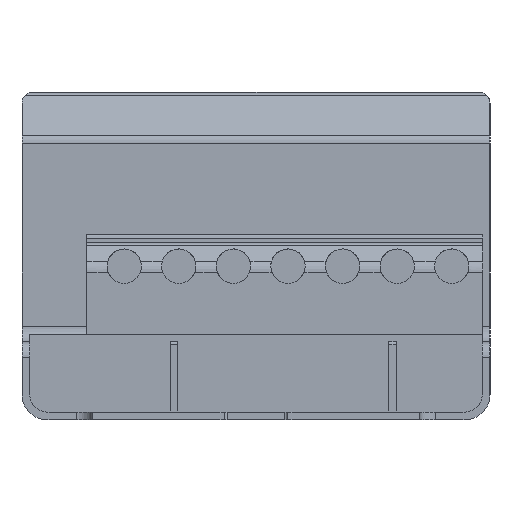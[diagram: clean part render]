
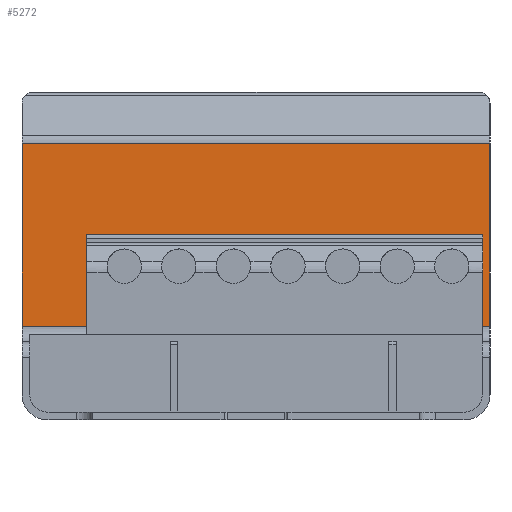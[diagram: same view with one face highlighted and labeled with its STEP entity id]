
A CAD part, left-side view. The second image highlights one B-rep face of the part: STEP entity #5272.
In plain terms, the highlighted planar face has unit normal (-1, 0, 0).
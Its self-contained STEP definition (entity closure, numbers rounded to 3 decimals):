
#1338=DIRECTION('',(0.,-1.,0.));
#1339=VECTOR('',#1338,30.);
#1340=CARTESIAN_POINT('',(23.3,15.,6.));
#1341=LINE('',#1340,#1339);
#2033=DIRECTION('',(0.,0.,1.));
#2034=VECTOR('',#2033,11.71);
#2035=CARTESIAN_POINT('',(23.3,15.,6.));
#2036=LINE('',#2035,#2034);
#2037=DIRECTION('',(0.,-1.,0.));
#2038=VECTOR('',#2037,30.);
#2039=CARTESIAN_POINT('',(23.3,15.,17.71));
#2040=LINE('',#2039,#2038);
#2041=DIRECTION('',(0.,0.,-1.));
#2042=VECTOR('',#2041,11.71);
#2043=CARTESIAN_POINT('',(23.3,-15.,17.71));
#2044=LINE('',#2043,#2042);
#2789=CARTESIAN_POINT('',(23.3,15.,17.71));
#2790=CARTESIAN_POINT('',(23.3,-15.,17.71));
#2791=VERTEX_POINT('',#2789);
#2792=VERTEX_POINT('',#2790);
#2897=CARTESIAN_POINT('',(23.3,-15.,6.));
#2898=VERTEX_POINT('',#2897);
#2899=CARTESIAN_POINT('',(23.3,15.,6.));
#2900=VERTEX_POINT('',#2899);
#5260=CARTESIAN_POINT('',(23.3,15.,5.45));
#5261=DIRECTION('',(-1.,0.,0.));
#5262=DIRECTION('',(0.,0.,1.));
#5263=AXIS2_PLACEMENT_3D('',#5260,#5261,#5262);
#5264=PLANE('',#5263);
#5265=ORIENTED_EDGE('',*,*,#4552,.F.);
#5266=ORIENTED_EDGE('',*,*,#2990,.T.);
#5268=ORIENTED_EDGE('',*,*,#5267,.T.);
#5269=ORIENTED_EDGE('',*,*,#3170,.T.);
#5270=EDGE_LOOP('',(#5265,#5266,#5268,#5269));
#5271=FACE_OUTER_BOUND('',#5270,.F.);
#5272=ADVANCED_FACE('',(#5271),#5264,.T.);
#2990=EDGE_CURVE('',#2900,#2791,#2036,.T.);
#3170=EDGE_CURVE('',#2792,#2898,#2044,.T.);
#4552=EDGE_CURVE('',#2900,#2898,#1341,.T.);
#5267=EDGE_CURVE('',#2791,#2792,#2040,.T.);
